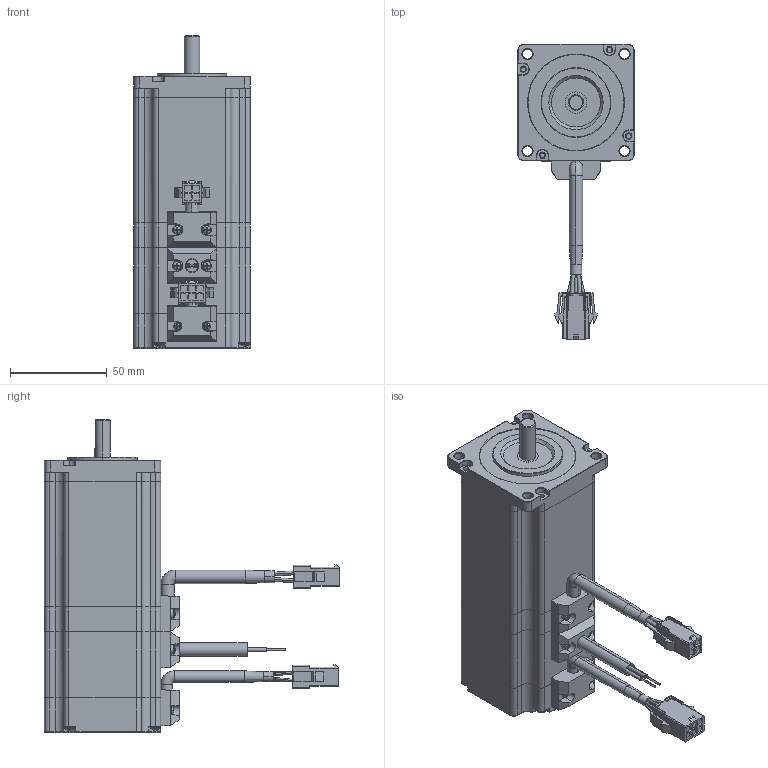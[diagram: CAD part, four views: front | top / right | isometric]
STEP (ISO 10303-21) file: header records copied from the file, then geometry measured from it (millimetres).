
FILE_DESCRIPTION (( 'STEP AP214' ), '1' );
FILE_NAME ('LS60E30-D2B42S02-BL.STEP', '2019-12-17T02:02:57', ( '' ), ( '' ), 'SwSTEP 2.0', 'SolidWorks 2018', '' );
FILE_SCHEMA (( 'AUTOMOTIVE_DESIGN' ));
Length unit declared in the file: millimetre
Products named in the file (1): LS60E30-D2B42S02-BL
Bounding box: 60 x 152.19 x 161.5 mm (x, y, z)
Volume: 231512.8 mm3; surface area: 94736 mm2
Topology: 1 solids, 3 shells, 5894 faces, 16744 edges, 11097 vertices
Faces by surface type: plane 5420, cylinder 352, cone 46, torus 36, bspline 20, sphere 20
Entity records: 191453 total; most frequent: CARTESIAN_POINT 34618, ORIENTED_EDGE 33488, DIRECTION 29452, EDGE_CURVE 16744, VECTOR 15562, LINE 15562, VERTEX_POINT 11097, AXIS2_PLACEMENT_3D 6945
